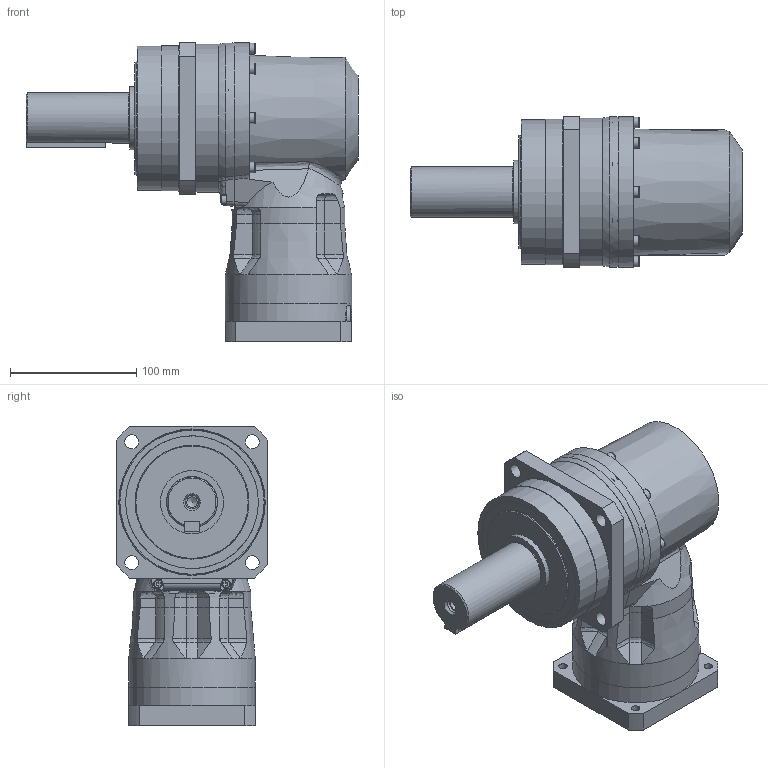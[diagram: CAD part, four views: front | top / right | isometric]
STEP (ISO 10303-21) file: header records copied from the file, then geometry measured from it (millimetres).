
FILE_DESCRIPTION(/* description */ ('ANFX-PK130W-2-Z35G'),/* implementation_level */ '2;1');
FILE_NAME(/* name */ 'C:\Users\ADMINI~1\AppData\Local\Temp\MM581860_ANFX-PK130W-2-Z35G.stp',/* time_stamp */ '2018-07-11T08:44:27+02:00',/* author */ ('Berger'),/* organization */ (''),/* preprocessor_version */ 'ST-DEVELOPER v17',/* originating_system */ 'Autodesk Inventor 2018',/* authorisation */ '');
FILE_SCHEMA (('AUTOMOTIVE_DESIGN { 1 0 10303 214 3 1 1 }'));
Length unit declared in the file: millimetre
Products named in the file (23): MM581710; MMBG0004105; MMCM057LG; MMAF787LG; 5006008RS---G; MMAP6504G; 213742; M530A406212--G; 211458; M214303; 200458; MMBG0004078; MMCL445LG; MMCM226LG; MAX4841G; MAW8388G; M233C1208063NG; MMBG0004116; MMAF790LG; 213890; 134811; MAW8794G; 204174
Assembly tree (52 placements, depth 3):
  MM581710
    MMBG0004105
      MMCM057LG
      MMAF787LG
      5006008RS---G
      MMAP6504G
      213742
      M530A406212--G
      211458  x2
      M214303  x8
      200458  x7
    MMBG0004078
      MMCL445LG
      MMCM226LG
      MAX4841G
      MAW8388G
      M233C1208063NG
    MMBG0004116
      MMAF790LG
      213890  x10
    134811
    MAW8794G
    204174  x8
Bounding box: 262.5 x 120 x 236.7 mm (x, y, z)
Volume: 1584645.4 mm3; surface area: 424332.6 mm2
Topology: 108 solids, 109 shells, 1192 faces, 3302 edges, 2304 vertices
Faces by surface type: plane 565, cylinder 298, cone 132, torus 78, bspline 61, sphere 58
Full cylindrical faces by diameter (mm): 3.242 x10, 4 x11, 4.134 x15, 4.5 x10, 4.917 x9, 5 x15, 5.5 x15, 6 x9, 6.6 x9, 6.647 x4, 7 x10, 8 x8, 8.376 x1, 8.5 x15, 8.566 x2, 10 x9, 10.5 x1, 11 x12, 15 x3, 15.2 x1, 15.6 x1, 18 x1, 24.5 x1, 28 x1, 37 x1, 38 x1, 39.4 x1, 39.6 x1, 40 x3, 42 x1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
Entity records: 27345 total; most frequent: CARTESIAN_POINT 6343, DIRECTION 4475, ORIENTED_EDGE 3964, EDGE_CURVE 1982, AXIS2_PLACEMENT_3D 1890, VERTEX_POINT 1479, CIRCLE 1071, EDGE_LOOP 979
